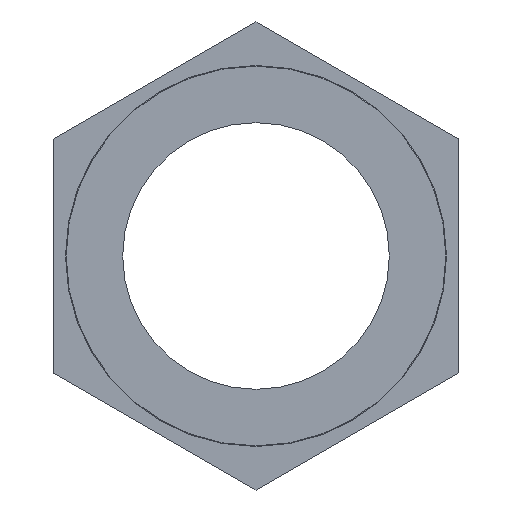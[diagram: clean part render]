
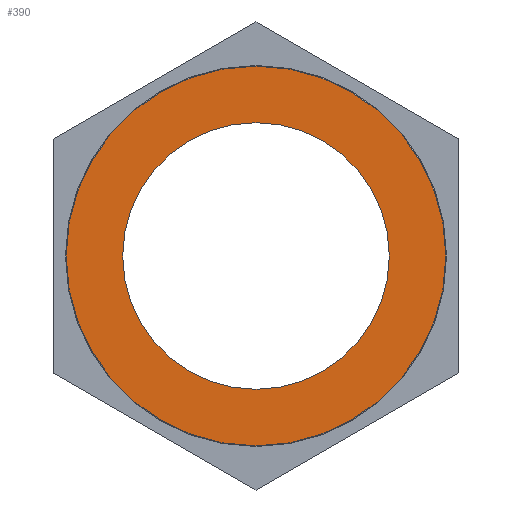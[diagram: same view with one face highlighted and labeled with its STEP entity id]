
A CAD part, left-side view. The second image highlights one B-rep face of the part: STEP entity #390.
In plain terms, the highlighted planar face has unit normal (-1, 0, 0).
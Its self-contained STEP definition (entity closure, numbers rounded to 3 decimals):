
#69=PLANE('',#425);
#94=FACE_BOUND('',#145,.T.);
#112=FACE_OUTER_BOUND('',#144,.T.);
#144=EDGE_LOOP('',(#297));
#145=EDGE_LOOP('',(#298));
#189=CIRCLE('',#422,37.472);
#191=CIRCLE('',#426,26.314);
#212=VERTEX_POINT('',#609);
#214=VERTEX_POINT('',#615);
#247=EDGE_CURVE('',#212,#212,#189,.T.);
#249=EDGE_CURVE('',#214,#214,#191,.T.);
#297=ORIENTED_EDGE('',*,*,#247,.F.);
#298=ORIENTED_EDGE('',*,*,#249,.F.);
#390=ADVANCED_FACE('',(#112,#94),#69,.T.);
#422=AXIS2_PLACEMENT_3D('',#610,#479,#480);
#425=AXIS2_PLACEMENT_3D('',#614,#485,#486);
#426=AXIS2_PLACEMENT_3D('',#616,#487,#488);
#479=DIRECTION('center_axis',(1.,0.,0.));
#480=DIRECTION('ref_axis',(0.,1.,0.));
#485=DIRECTION('center_axis',(-1.,0.,0.));
#486=DIRECTION('ref_axis',(0.,0.,1.));
#487=DIRECTION('center_axis',(-1.,0.,0.));
#488=DIRECTION('ref_axis',(0.,0.,1.));
#609=CARTESIAN_POINT('',(0.,-37.472,0.));
#610=CARTESIAN_POINT('Origin',(0.,0.,0.));
#614=CARTESIAN_POINT('Origin',(0.,-26.314,0.));
#615=CARTESIAN_POINT('',(0.,-26.314,0.));
#616=CARTESIAN_POINT('Origin',(0.,0.,0.));
